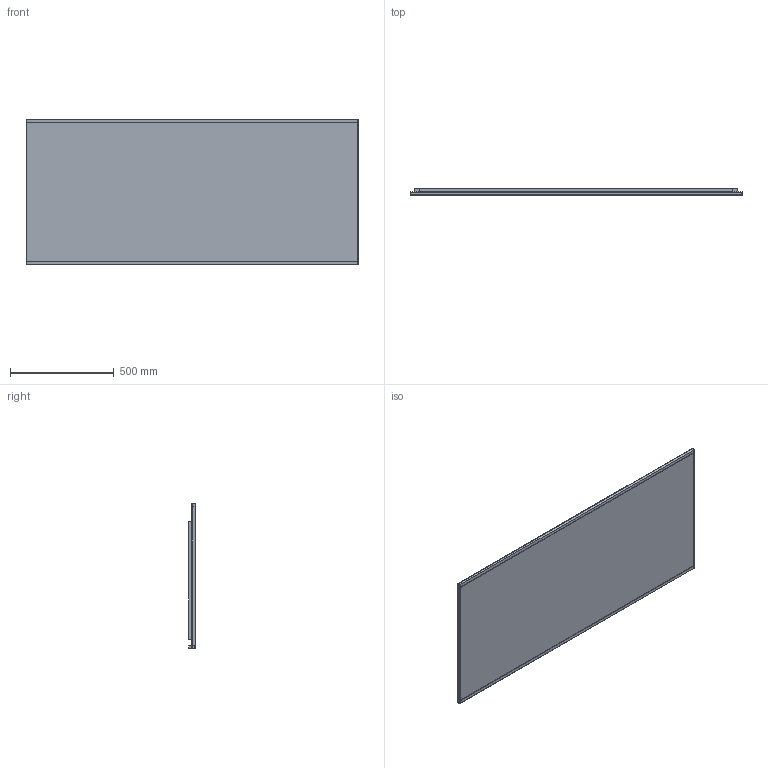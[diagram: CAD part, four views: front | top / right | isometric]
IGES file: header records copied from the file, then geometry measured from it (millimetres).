
Global section: file name: 502787; native system: Autodesk Inventor 2021; preprocessor: unknown; author: JANAN; date: 20221202.150641; units: millimetre
Bounding box: 1600 x 32 x 700 mm (x, y, z)
Volume: 30576205 mm3; surface area: 4874481.4 mm2
Topology: 4 solids, 4 shells, 63 faces, 154 edges, 104 vertices
Faces by surface type: bspline 63
